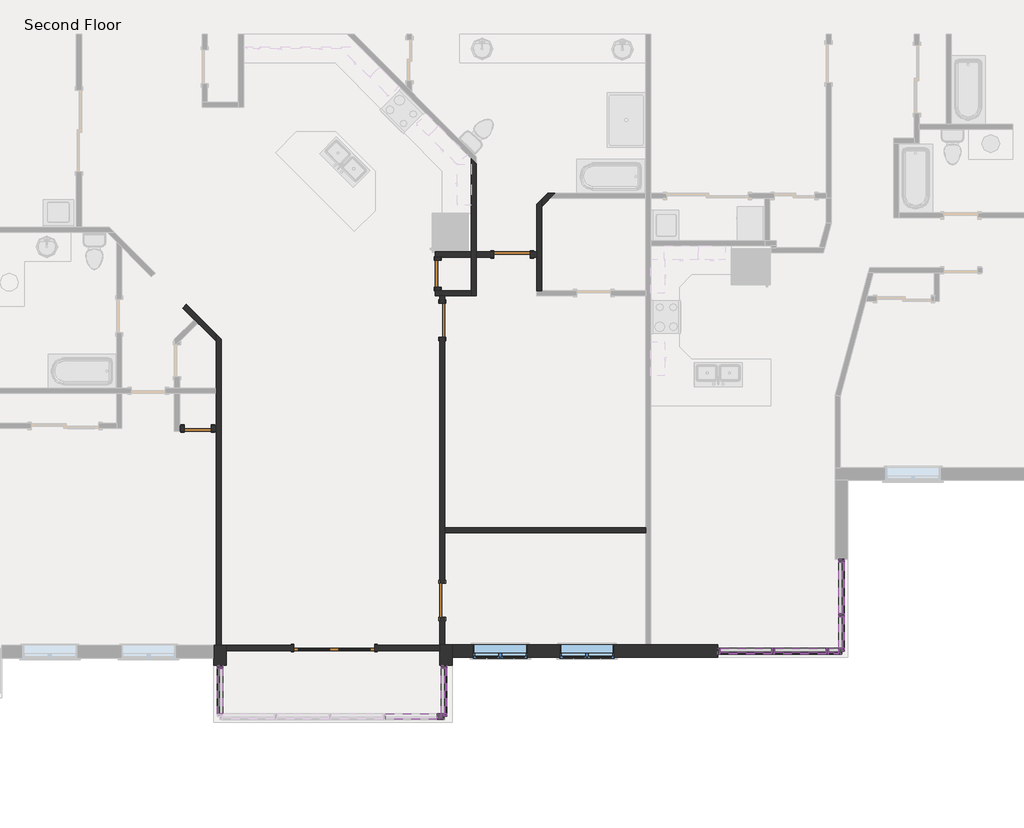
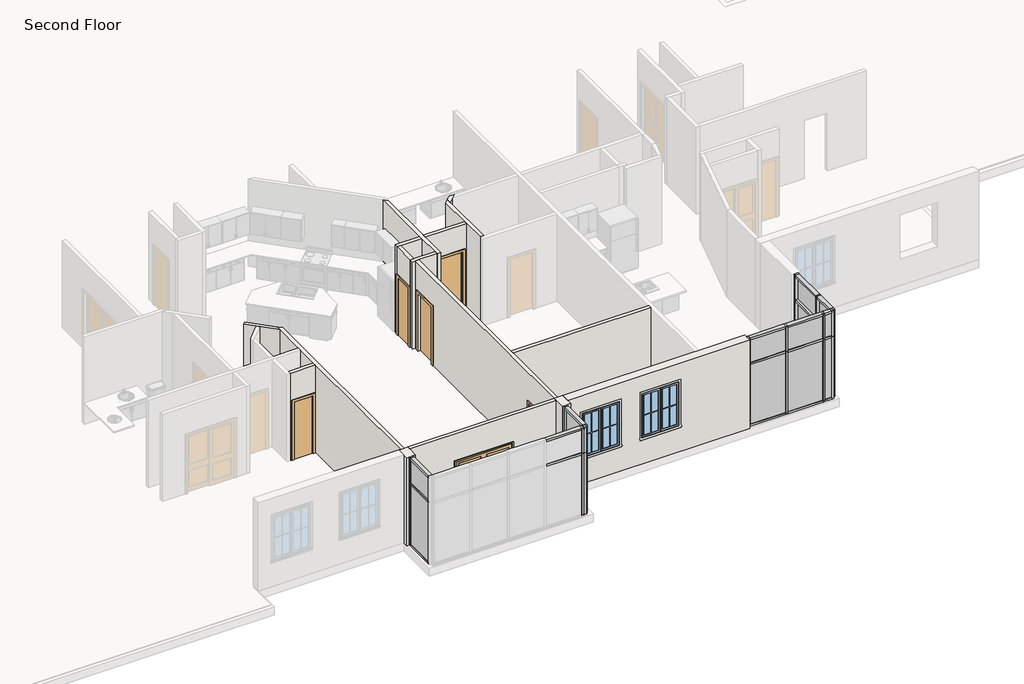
# One storey, part 4 of 17: 50 members, 16 plates, 15 walls, 6 doors, 2 windows.
"""IFC4 building model written with IfcOpenShell, lengths in millimetres."""

from ifc_helpers import new_model, si_unit, frame, origin, place, context, project, spatial, polyline, outline, extrude, faceted_brep, transform, mapped, element, save
from components import door_0a7806e9, door_e2285e44, door_f2b275c1, door_d141acb4, rectangular_mullion_rectangular_mullion_1_fa3625a1, rectangular_mullion_rectangular_mullion_1_7cbf0b94, rectangular_mullion_rectangular_mullion_1_6186cc23, rectangular_mullion_rectangular_mullion_1_049a2e78, rectangular_mullion_rectangular_mullion_1_a50b3cda, rectangular_mullion_rectangular_mullion_1_5cd4c5ac, rectangular_mullion_rectangular_mullion_1_13524bf9, rectangular_mullion_rectangular_mullion_1_a1888574, rectangular_mullion_rectangular_mullion_1_777cae27, rectangular_mullion_rectangular_mullion_1_d1eb19d3, rectangular_mullion_rectangular_mullion_1_51e130ae, rectangular_mullion_rectangular_mullion_1_daa2411d, rectangular_mullion_rectangular_mullion_1_c89d8757, rectangular_mullion_rectangular_mullion_1_6bbe7064, system_panel_glazed_0ed27d1d, system_panel_glazed_134bacdb, system_panel_glazed_53e6f9fb, system_panel_glazed_cb820e14, system_panel_glazed_7c98c5cb, system_panel_glazed_dc3c0d95, system_panel_glazed_257c6b8d, system_panel_glazed_6272dde4, system_panel_glazed_2237517c, system_panel_glazed_5f627d4c, system_panel_glazed_119c605a, system_panel_glazed_b87cf22f, window_33528cc2

model = new_model("IFC4")

# Units and contexts
model_context = context("Model", 3, world=origin())
ifc_project = project(units=[si_unit("LENGTHUNIT", "METRE", prefix="MILLI")], contexts=[model_context])

# Site, building, storey
site = spatial("IfcSite", under=ifc_project)
building = spatial("IfcBuilding", under=site)
storey = spatial("IfcBuildingStorey", under=building, Name="Second Floor", Elevation=3048.0)

# Doors
placement = place(None, origin())
door_shape = door_0a7806e9(model_context)
element("IfcDoor", 1, ObjectType="Double-Glass 1 : 72\" x 82\"", at=placement, inside=storey, context=model_context, shape_type="MappedRepresentation", body=[
    mapped(door_shape, transform((35119.623284, -18481.0379087, 3048.0), x_axis=(-1.0, 0.0, 0.0), y_axis=(0.0, -1.0, 0.0), z_axis=(0.0, 0.0, 1.0))),
])
door_2_shape = door_e2285e44(model_context)
element("IfcDoor", 2, ObjectType="Single-Flush : 24\" x 80\"", at=placement, inside=storey, context=model_context, shape_type="MappedRepresentation", body=[
    mapped(door_2_shape, transform((37444.6738013, -10083.539835, 3048.0), x_axis=(0.0, -1.0, 0.0), y_axis=(1.0, 0.0, 0.0), z_axis=(0.0, 0.0, 1.0))),
])
element("IfcDoor", 3, ObjectType="Single-Flush : 24\" x 80\"", at=placement, inside=storey, context=model_context, shape_type="MappedRepresentation", body=[
    mapped(door_2_shape, transform((32056.0053, -13556.0564679, 3048.0), x_axis=(1.0, 0.0, 0.0), y_axis=(0.0, 1.0, 0.0), z_axis=(0.0, 0.0, 1.0))),
])
door_3_shape = door_f2b275c1(model_context)
element("IfcDoor", 4, ObjectType="Single-Flush : 30\" x 80\"", at=placement, inside=storey, context=model_context, shape_type="MappedRepresentation", body=[
    mapped(door_3_shape, transform((37544.2970292, -11126.7896208, 3048.0), x_axis=(0.0, 1.0, 0.0), y_axis=(-1.0, 0.0, 0.0), z_axis=(0.0, 0.0, 1.0))),
])
element("IfcDoor", 5, ObjectType="Single-Flush : 30\" x 80\"", at=placement, inside=storey, context=model_context, shape_type="MappedRepresentation", body=[
    mapped(door_3_shape, transform((37544.2970292, -17416.6191587, 3048.0), x_axis=(0.0, -1.0, 0.0), y_axis=(1.0, 0.0, 0.0), z_axis=(0.0, 0.0, 1.0))),
])
door_4_shape = door_d141acb4(model_context)
element("IfcDoor", 6, ObjectType="Single-Flush : 32\" x 84\"", at=placement, inside=storey, context=model_context, shape_type="MappedRepresentation", body=[
    mapped(door_4_shape, transform((39111.3713345, -9649.8900492, 3048.0), x_axis=(1.0, 0.0, 0.0), y_axis=(0.0, 1.0, 0.0), z_axis=(0.0, 0.0, 1.0))),
])

# Members
rectangular_mullion_rectangular_mullion_1_shape = rectangular_mullion_rectangular_mullion_1_fa3625a1(model_context)
element("IfcMember", 7, ObjectType="Rectangular Mullion : Rectangular Mullion 1", at=placement, inside=storey, context=model_context, shape_type="MappedRepresentation", body=[
    mapped(rectangular_mullion_rectangular_mullion_1_shape, transform((44943.6345295, -18555.6618072, 6096.0), x_axis=(0.0, 0.0, 1.0), y_axis=(0.0, -1.0, 0.0), z_axis=(1.0, 0.0, 0.0))),
])
element("IfcMember", 8, ObjectType="Rectangular Mullion : Rectangular Mullion 1", at=placement, inside=storey, context=model_context, shape_type="MappedRepresentation", body=[
    mapped(rectangular_mullion_rectangular_mullion_1_shape, transform((46162.8345295, -18555.6618072, 6096.0), x_axis=(0.0, 0.0, 1.0), y_axis=(0.0, -1.0, 0.0), z_axis=(1.0, 0.0, 0.0))),
])
element("IfcMember", 9, ObjectType="Rectangular Mullion : Rectangular Mullion 1", at=placement, inside=storey, context=model_context, shape_type="MappedRepresentation", body=[
    mapped(rectangular_mullion_rectangular_mullion_1_shape, transform((37430.4620392, -20021.7015972, 6096.0), x_axis=(0.0, 0.0, 1.0), y_axis=(0.0, -1.0, 0.0), z_axis=(1.0, 0.0, 0.0))),
])
element("IfcMember", 10, ObjectType="Rectangular Mullion : Rectangular Mullion 1", at=placement, inside=storey, context=model_context, shape_type="MappedRepresentation", body=[
    mapped(rectangular_mullion_rectangular_mullion_1_shape, transform((43787.9345292, -18555.6618072, 3048.0), x_axis=(0.0, 0.0, -1.0), y_axis=(0.0, -1.0, 0.0), z_axis=(-1.0, 0.0, 0.0))),
])
element("IfcMember", 11, ObjectType="Rectangular Mullion : Rectangular Mullion 1", at=placement, inside=storey, context=model_context, shape_type="MappedRepresentation", body=[
    mapped(rectangular_mullion_rectangular_mullion_1_shape, transform((45007.1345295, -18555.6618072, 3048.0), x_axis=(0.0, 0.0, -1.0), y_axis=(0.0, -1.0, 0.0), z_axis=(-1.0, 0.0, 0.0))),
])
rectangular_mullion_rectangular_mullion_1_2_shape = rectangular_mullion_rectangular_mullion_1_7cbf0b94(model_context)
element("IfcMember", 12, ObjectType="Rectangular Mullion : Rectangular Mullion 1", at=placement, inside=storey, context=model_context, shape_type="MappedRepresentation", body=[
    mapped(rectangular_mullion_rectangular_mullion_1_2_shape, transform((44943.6345295, -18555.6618072, 5213.35), x_axis=(0.0, 0.0, 1.0), y_axis=(0.0, -1.0, 0.0), z_axis=(1.0, 0.0, 0.0))),
])
element("IfcMember", 13, ObjectType="Rectangular Mullion : Rectangular Mullion 1", at=placement, inside=storey, context=model_context, shape_type="MappedRepresentation", body=[
    mapped(rectangular_mullion_rectangular_mullion_1_2_shape, transform((46162.8345295, -18555.6618072, 5213.35), x_axis=(0.0, 0.0, 1.0), y_axis=(0.0, -1.0, 0.0), z_axis=(1.0, 0.0, 0.0))),
])
element("IfcMember", 14, ObjectType="Rectangular Mullion : Rectangular Mullion 1", at=placement, inside=storey, context=model_context, shape_type="MappedRepresentation", body=[
    mapped(rectangular_mullion_rectangular_mullion_1_2_shape, transform((37430.4620392, -20021.7015972, 5213.35), x_axis=(0.0, 0.0, 1.0), y_axis=(0.0, -1.0, 0.0), z_axis=(1.0, 0.0, 0.0))),
])
rectangular_mullion_rectangular_mullion_1_3_shape = rectangular_mullion_rectangular_mullion_1_6186cc23(model_context)
element("IfcMember", 15, ObjectType="Rectangular Mullion : Rectangular Mullion 1", at=placement, inside=storey, context=model_context, shape_type="MappedRepresentation", body=[
    mapped(rectangular_mullion_rectangular_mullion_1_3_shape, transform((44975.3845295, -18555.6618072, 3048.0), x_axis=(1.0, 0.0, 0.0), y_axis=(0.0, -1.0, 0.0), z_axis=(0.0, 0.0, -1.0))),
])
element("IfcMember", 16, ObjectType="Rectangular Mullion : Rectangular Mullion 1", at=placement, inside=storey, context=model_context, shape_type="MappedRepresentation", body=[
    mapped(rectangular_mullion_rectangular_mullion_1_3_shape, transform((46194.5845295, -18555.6618072, 3048.0), x_axis=(1.0, 0.0, 0.0), y_axis=(0.0, -1.0, 0.0), z_axis=(0.0, 0.0, -1.0))),
])
element("IfcMember", 17, ObjectType="Rectangular Mullion : Rectangular Mullion 1", at=placement, inside=storey, context=model_context, shape_type="MappedRepresentation", body=[
    mapped(rectangular_mullion_rectangular_mullion_1_3_shape, transform((37462.2120392, -20021.7015972, 3048.0), x_axis=(1.0, 0.0, 0.0), y_axis=(0.0, -1.0, 0.0), z_axis=(0.0, 0.0, -1.0))),
])
rectangular_mullion_rectangular_mullion_1_4_shape = rectangular_mullion_rectangular_mullion_1_049a2e78(model_context)
element("IfcMember", 18, ObjectType="Rectangular Mullion : Rectangular Mullion 1", at=placement, inside=storey, context=model_context, shape_type="MappedRepresentation", body=[
    mapped(rectangular_mullion_rectangular_mullion_1_4_shape, transform((44975.3845295, -18555.6618072, 5213.35), x_axis=(1.0, 0.0, 0.0), y_axis=(0.0, -1.0, 0.0), z_axis=(0.0, 0.0, -1.0))),
])
element("IfcMember", 19, ObjectType="Rectangular Mullion : Rectangular Mullion 1", at=placement, inside=storey, context=model_context, shape_type="MappedRepresentation", body=[
    mapped(rectangular_mullion_rectangular_mullion_1_4_shape, transform((46194.5845295, -18555.6618072, 5213.35), x_axis=(1.0, 0.0, 0.0), y_axis=(0.0, -1.0, 0.0), z_axis=(0.0, 0.0, -1.0))),
])
element("IfcMember", 20, ObjectType="Rectangular Mullion : Rectangular Mullion 1", at=placement, inside=storey, context=model_context, shape_type="MappedRepresentation", body=[
    mapped(rectangular_mullion_rectangular_mullion_1_4_shape, transform((37462.2120392, -20021.7015972, 5213.35), x_axis=(1.0, 0.0, 0.0), y_axis=(0.0, -1.0, 0.0), z_axis=(0.0, 0.0, -1.0))),
])
rectangular_mullion_rectangular_mullion_1_5_shape = rectangular_mullion_rectangular_mullion_1_a50b3cda(model_context)
element("IfcMember", 21, ObjectType="Rectangular Mullion : Rectangular Mullion 1", at=placement, inside=storey, context=model_context, shape_type="MappedRepresentation", body=[
    mapped(rectangular_mullion_rectangular_mullion_1_5_shape, transform((46511.3297255, -18555.6618072, 3048.0), x_axis=(1.0, 0.0, 0.0), y_axis=(0.0, -1.0, 0.0), z_axis=(0.0, 0.0, -1.0))),
])
element("IfcMember", 22, ObjectType="Rectangular Mullion : Rectangular Mullion 1", at=placement, inside=storey, context=model_context, shape_type="MappedRepresentation", body=[
    mapped(rectangular_mullion_rectangular_mullion_1_5_shape, transform((37582.8620389, -20021.7015972, 3048.0), x_axis=(1.0, 0.0, 0.0), y_axis=(0.0, -1.0, 0.0), z_axis=(0.0, 0.0, -1.0))),
])
element("IfcMember", 23, ObjectType="Rectangular Mullion : Rectangular Mullion 1", at=placement, inside=storey, context=model_context, shape_type="MappedRepresentation", body=[
    mapped(rectangular_mullion_rectangular_mullion_1_5_shape, transform((37582.8620389, -18872.3566587, 3048.0), x_axis=(0.0, 1.0, 0.0), y_axis=(1.0, 0.0, 0.0), z_axis=(0.0, 0.0, -1.0))),
])
rectangular_mullion_rectangular_mullion_1_6_shape = rectangular_mullion_rectangular_mullion_1_5cd4c5ac(model_context)
element("IfcMember", 24, ObjectType="Rectangular Mullion : Rectangular Mullion 1", at=placement, inside=storey, context=model_context, shape_type="MappedRepresentation", body=[
    mapped(rectangular_mullion_rectangular_mullion_1_6_shape, transform((46511.3297255, -18555.6618072, 5213.35), x_axis=(1.0, 0.0, 0.0), y_axis=(0.0, -1.0, 0.0), z_axis=(0.0, 0.0, -1.0))),
])
element("IfcMember", 25, ObjectType="Rectangular Mullion : Rectangular Mullion 1", at=placement, inside=storey, context=model_context, shape_type="MappedRepresentation", body=[
    mapped(rectangular_mullion_rectangular_mullion_1_6_shape, transform((37582.8620389, -20021.7015972, 5213.35), x_axis=(1.0, 0.0, 0.0), y_axis=(0.0, -1.0, 0.0), z_axis=(0.0, 0.0, -1.0))),
])
element("IfcMember", 26, ObjectType="Rectangular Mullion : Rectangular Mullion 1", at=placement, inside=storey, context=model_context, shape_type="MappedRepresentation", body=[
    mapped(rectangular_mullion_rectangular_mullion_1_6_shape, transform((37582.8620389, -18872.3566587, 5213.35), x_axis=(0.0, 1.0, 0.0), y_axis=(1.0, 0.0, 0.0), z_axis=(0.0, 0.0, -1.0))),
])
element("IfcMember", 27, ObjectType="Rectangular Mullion : Rectangular Mullion 1", at=placement, inside=storey, context=model_context, shape_type="MappedRepresentation", body=[
    mapped(rectangular_mullion_rectangular_mullion_1_6_shape, transform((43724.4345292, -18555.6618072, 6096.0), x_axis=(-1.0, 0.0, 0.0), y_axis=(0.0, -1.0, 0.0), z_axis=(0.0, 0.0, 1.0))),
])
element("IfcMember", 28, ObjectType="Rectangular Mullion : Rectangular Mullion 1", at=placement, inside=storey, context=model_context, shape_type="MappedRepresentation", body=[
    mapped(rectangular_mullion_rectangular_mullion_1_6_shape, transform((32553.6620389, -18872.3566587, 6096.0), x_axis=(0.0, 1.0, 0.0), y_axis=(-1.0, 0.0, 0.0), z_axis=(0.0, 0.0, 1.0))),
])
element("IfcMember", 29, ObjectType="Rectangular Mullion : Rectangular Mullion 1", at=placement, inside=storey, context=model_context, shape_type="MappedRepresentation", body=[
    mapped(rectangular_mullion_rectangular_mullion_1_6_shape, transform((37582.8620389, -20021.7015972, 6096.0), x_axis=(0.0, -1.0, 0.0), y_axis=(1.0, 0.0, 0.0), z_axis=(0.0, 0.0, 1.0))),
])
element("IfcMember", 30, ObjectType="Rectangular Mullion : Rectangular Mullion 1", at=placement, inside=storey, context=model_context, shape_type="MappedRepresentation", body=[
    mapped(rectangular_mullion_rectangular_mullion_1_5_shape, transform((43724.4345292, -18555.6618072, 5213.35), x_axis=(-1.0, 0.0, 0.0), y_axis=(0.0, -1.0, 0.0), z_axis=(0.0, 0.0, 1.0))),
])
element("IfcMember", 31, ObjectType="Rectangular Mullion : Rectangular Mullion 1", at=placement, inside=storey, context=model_context, shape_type="MappedRepresentation", body=[
    mapped(rectangular_mullion_rectangular_mullion_1_5_shape, transform((32553.6620389, -18872.3566587, 5213.35), x_axis=(0.0, 1.0, 0.0), y_axis=(-1.0, 0.0, 0.0), z_axis=(0.0, 0.0, 1.0))),
])
element("IfcMember", 32, ObjectType="Rectangular Mullion : Rectangular Mullion 1", at=placement, inside=storey, context=model_context, shape_type="MappedRepresentation", body=[
    mapped(rectangular_mullion_rectangular_mullion_1_5_shape, transform((37582.8620389, -20021.7015972, 5213.35), x_axis=(0.0, -1.0, 0.0), y_axis=(1.0, 0.0, 0.0), z_axis=(0.0, 0.0, 1.0))),
])
element("IfcMember", 33, ObjectType="Rectangular Mullion : Rectangular Mullion 1", at=placement, inside=storey, context=model_context, shape_type="MappedRepresentation", body=[
    mapped(rectangular_mullion_rectangular_mullion_1_shape, transform((46511.3297255, -17714.54885, 6096.0), x_axis=(0.0, 0.0, 1.0), y_axis=(-1.0, 0.0, 0.0), z_axis=(0.0, -1.0, 0.0))),
])
element("IfcMember", 34, ObjectType="Rectangular Mullion : Rectangular Mullion 1", at=placement, inside=storey, context=model_context, shape_type="MappedRepresentation", body=[
    mapped(rectangular_mullion_rectangular_mullion_1_shape, transform((46511.3297255, -16558.8488497, 3048.0), x_axis=(0.0, 0.0, -1.0), y_axis=(-1.0, 0.0, 0.0), z_axis=(0.0, 1.0, 0.0))),
])
element("IfcMember", 35, ObjectType="Rectangular Mullion : Rectangular Mullion 1", at=placement, inside=storey, context=model_context, shape_type="MappedRepresentation", body=[
    mapped(rectangular_mullion_rectangular_mullion_1_5_shape, transform((46511.3297255, -18555.6618072, 3048.0), x_axis=(0.0, -1.0, 0.0), y_axis=(-1.0, 0.0, 0.0), z_axis=(0.0, 0.0, -1.0))),
])
element("IfcMember", 36, ObjectType="Rectangular Mullion : Rectangular Mullion 1", at=placement, inside=storey, context=model_context, shape_type="MappedRepresentation", body=[
    mapped(rectangular_mullion_rectangular_mullion_1_6_shape, transform((46511.3297255, -18555.6618072, 5213.35), x_axis=(0.0, -1.0, 0.0), y_axis=(-1.0, 0.0, 0.0), z_axis=(0.0, 0.0, -1.0))),
])
element("IfcMember", 37, ObjectType="Rectangular Mullion : Rectangular Mullion 1", at=placement, inside=storey, context=model_context, shape_type="MappedRepresentation", body=[
    mapped(rectangular_mullion_rectangular_mullion_1_6_shape, transform((46511.3297255, -16495.3488497, 6096.0), x_axis=(0.0, 1.0, 0.0), y_axis=(-1.0, 0.0, 0.0), z_axis=(0.0, 0.0, 1.0))),
])
element("IfcMember", 38, ObjectType="Rectangular Mullion : Rectangular Mullion 1", at=placement, inside=storey, context=model_context, shape_type="MappedRepresentation", body=[
    mapped(rectangular_mullion_rectangular_mullion_1_5_shape, transform((46511.3297255, -16495.3488497, 5213.35), x_axis=(0.0, 1.0, 0.0), y_axis=(-1.0, 0.0, 0.0), z_axis=(0.0, 0.0, 1.0))),
])
element("IfcMember", 39, ObjectType="Rectangular Mullion : Rectangular Mullion 1", at=placement, inside=storey, context=model_context, shape_type="MappedRepresentation", body=[
    mapped(rectangular_mullion_rectangular_mullion_1_2_shape, transform((46511.3297255, -17714.54885, 5213.35), x_axis=(0.0, 0.0, 1.0), y_axis=(-1.0, 0.0, 0.0), z_axis=(0.0, -1.0, 0.0))),
])
element("IfcMember", 40, ObjectType="Rectangular Mullion : Rectangular Mullion 1", at=placement, inside=storey, context=model_context, shape_type="MappedRepresentation", body=[
    mapped(rectangular_mullion_rectangular_mullion_1_3_shape, transform((46511.3297255, -17746.29885, 3048.0), x_axis=(0.0, -1.0, 0.0), y_axis=(-1.0, 0.0, 0.0), z_axis=(0.0, 0.0, -1.0))),
])
element("IfcMember", 41, ObjectType="Rectangular Mullion : Rectangular Mullion 1", at=placement, inside=storey, context=model_context, shape_type="MappedRepresentation", body=[
    mapped(rectangular_mullion_rectangular_mullion_1_4_shape, transform((46511.3297255, -17746.29885, 5213.35), x_axis=(0.0, -1.0, 0.0), y_axis=(-1.0, 0.0, 0.0), z_axis=(0.0, 0.0, -1.0))),
])
rectangular_mullion_rectangular_mullion_1_7_shape = rectangular_mullion_rectangular_mullion_1_13524bf9(model_context)
element("IfcMember", 42, ObjectType="Rectangular Mullion : Rectangular Mullion 1", at=placement, inside=storey, context=model_context, shape_type="MappedRepresentation", body=[
    mapped(rectangular_mullion_rectangular_mullion_1_7_shape, transform((46511.3297255, -18492.1618072, 6096.0), x_axis=(0.0, 0.0, 1.0), y_axis=(-1.0, 0.0, 0.0), z_axis=(0.0, -1.0, 0.0))),
])
element("IfcMember", 43, ObjectType="Rectangular Mullion : Rectangular Mullion 1", at=placement, inside=storey, context=model_context, shape_type="MappedRepresentation", body=[
    mapped(rectangular_mullion_rectangular_mullion_1_7_shape, transform((46511.3297255, -17778.04885, 3048.0), x_axis=(0.0, 0.0, -1.0), y_axis=(-1.0, 0.0, 0.0), z_axis=(0.0, 1.0, 0.0))),
])
rectangular_mullion_rectangular_mullion_1_8_shape = rectangular_mullion_rectangular_mullion_1_a1888574(model_context)
element("IfcMember", 44, ObjectType="Rectangular Mullion : Rectangular Mullion 1", at=placement, inside=storey, context=model_context, shape_type="MappedRepresentation", body=[
    mapped(rectangular_mullion_rectangular_mullion_1_8_shape, transform((46511.3297255, -18492.1618072, 5213.35), x_axis=(0.0, 0.0, 1.0), y_axis=(-1.0, 0.0, 0.0), z_axis=(0.0, -1.0, 0.0))),
])
rectangular_mullion_rectangular_mullion_1_9_shape = rectangular_mullion_rectangular_mullion_1_777cae27(model_context)
element("IfcMember", 45, ObjectType="Rectangular Mullion : Rectangular Mullion 1", at=placement, inside=storey, context=model_context, shape_type="MappedRepresentation", body=[
    mapped(rectangular_mullion_rectangular_mullion_1_9_shape, transform((46447.8297255, -18555.6618072, 6096.0), x_axis=(0.0, 0.0, 1.0), y_axis=(0.0, -1.0, 0.0), z_axis=(1.0, 0.0, 0.0))),
])
element("IfcMember", 46, ObjectType="Rectangular Mullion : Rectangular Mullion 1", at=placement, inside=storey, context=model_context, shape_type="MappedRepresentation", body=[
    mapped(rectangular_mullion_rectangular_mullion_1_9_shape, transform((46226.3345295, -18555.6618072, 3048.0), x_axis=(0.0, 0.0, -1.0), y_axis=(0.0, -1.0, 0.0), z_axis=(-1.0, 0.0, 0.0))),
])
rectangular_mullion_rectangular_mullion_1_10_shape = rectangular_mullion_rectangular_mullion_1_d1eb19d3(model_context)
element("IfcMember", 47, ObjectType="Rectangular Mullion : Rectangular Mullion 1", at=placement, inside=storey, context=model_context, shape_type="MappedRepresentation", body=[
    mapped(rectangular_mullion_rectangular_mullion_1_10_shape, transform((46447.8297255, -18555.6618072, 5213.35), x_axis=(0.0, 0.0, 1.0), y_axis=(0.0, -1.0, 0.0), z_axis=(1.0, 0.0, 0.0))),
])
rectangular_mullion_rectangular_mullion_1_11_shape = rectangular_mullion_rectangular_mullion_1_51e130ae(model_context)
element("IfcMember", 48, ObjectType="Rectangular Mullion : Rectangular Mullion 1", at=placement, inside=storey, context=model_context, shape_type="MappedRepresentation", body=[
    mapped(rectangular_mullion_rectangular_mullion_1_11_shape, transform((32553.6620389, -18935.8566587, 3048.0), x_axis=(0.0, 0.0, -1.0), y_axis=(-1.0, 0.0, 0.0), z_axis=(0.0, 1.0, 0.0))),
])
element("IfcMember", 49, ObjectType="Rectangular Mullion : Rectangular Mullion 1", at=placement, inside=storey, context=model_context, shape_type="MappedRepresentation", body=[
    mapped(rectangular_mullion_rectangular_mullion_1_11_shape, transform((37582.8620389, -19958.2015972, 3048.0), x_axis=(0.0, 0.0, -1.0), y_axis=(1.0, 0.0, 0.0), z_axis=(0.0, -1.0, 0.0))),
])
rectangular_mullion_rectangular_mullion_1_12_shape = rectangular_mullion_rectangular_mullion_1_daa2411d(model_context)
element("IfcMember", 50, ObjectType="Rectangular Mullion : Rectangular Mullion 1", at=placement, inside=storey, context=model_context, shape_type="MappedRepresentation", body=[
    mapped(rectangular_mullion_rectangular_mullion_1_12_shape, transform((32553.6620389, -19958.2015972, 5213.35), x_axis=(0.0, 0.0, 1.0), y_axis=(-1.0, 0.0, 0.0), z_axis=(0.0, -1.0, 0.0))),
])
element("IfcMember", 51, ObjectType="Rectangular Mullion : Rectangular Mullion 1", at=placement, inside=storey, context=model_context, shape_type="MappedRepresentation", body=[
    mapped(rectangular_mullion_rectangular_mullion_1_12_shape, transform((37582.8620389, -18935.8566587, 5213.35), x_axis=(0.0, 0.0, 1.0), y_axis=(1.0, 0.0, 0.0), z_axis=(0.0, 1.0, 0.0))),
])
element("IfcMember", 52, ObjectType="Rectangular Mullion : Rectangular Mullion 1", at=placement, inside=storey, context=model_context, shape_type="MappedRepresentation", body=[
    mapped(rectangular_mullion_rectangular_mullion_1_11_shape, transform((32553.6620389, -19958.2015972, 6096.0), x_axis=(0.0, 0.0, 1.0), y_axis=(-1.0, 0.0, 0.0), z_axis=(0.0, -1.0, 0.0))),
])
element("IfcMember", 53, ObjectType="Rectangular Mullion : Rectangular Mullion 1", at=placement, inside=storey, context=model_context, shape_type="MappedRepresentation", body=[
    mapped(rectangular_mullion_rectangular_mullion_1_11_shape, transform((37582.8620389, -18935.8566587, 6096.0), x_axis=(0.0, 0.0, 1.0), y_axis=(1.0, 0.0, 0.0), z_axis=(0.0, 1.0, 0.0))),
])
rectangular_mullion_rectangular_mullion_1_13_shape = rectangular_mullion_rectangular_mullion_1_c89d8757(model_context)
element("IfcMember", 54, ObjectType="Rectangular Mullion : Rectangular Mullion 1", at=placement, inside=storey, context=model_context, shape_type="MappedRepresentation", body=[
    mapped(rectangular_mullion_rectangular_mullion_1_13_shape, transform((37519.3620389, -20021.7015972, 6096.0), x_axis=(0.0, 0.0, 1.0), y_axis=(0.0, -1.0, 0.0), z_axis=(1.0, 0.0, 0.0))),
])
element("IfcMember", 55, ObjectType="Rectangular Mullion : Rectangular Mullion 1", at=placement, inside=storey, context=model_context, shape_type="MappedRepresentation", body=[
    mapped(rectangular_mullion_rectangular_mullion_1_13_shape, transform((37493.9620392, -20021.7015972, 3048.0), x_axis=(0.0, 0.0, -1.0), y_axis=(0.0, -1.0, 0.0), z_axis=(-1.0, 0.0, 0.0))),
])
rectangular_mullion_rectangular_mullion_1_14_shape = rectangular_mullion_rectangular_mullion_1_6bbe7064(model_context)
element("IfcMember", 56, ObjectType="Rectangular Mullion : Rectangular Mullion 1", at=placement, inside=storey, context=model_context, shape_type="MappedRepresentation", body=[
    mapped(rectangular_mullion_rectangular_mullion_1_14_shape, transform((37519.3620389, -20021.7015972, 5213.35), x_axis=(0.0, 0.0, 1.0), y_axis=(0.0, -1.0, 0.0), z_axis=(1.0, 0.0, 0.0))),
])

# Plates
system_panel_glazed_shape = system_panel_glazed_0ed27d1d(model_context)
element("IfcPlate", 57, ObjectType="System Panel : Glazed", at=placement, inside=storey, context=model_context, shape_type="MappedRepresentation", body=[
    mapped(system_panel_glazed_shape, transform((44365.7845293, -18555.6618072, 3111.5), x_axis=(1.0, 0.0, 0.0), y_axis=(0.0, 1.0, 0.0), z_axis=(0.0, 0.0, 1.0))),
])
element("IfcPlate", 58, ObjectType="System Panel : Glazed", at=placement, inside=storey, context=model_context, shape_type="MappedRepresentation", body=[
    mapped(system_panel_glazed_shape, transform((45584.9845295, -18555.6618072, 3111.5), x_axis=(1.0, 0.0, 0.0), y_axis=(0.0, 1.0, 0.0), z_axis=(0.0, 0.0, 1.0))),
])
system_panel_glazed_2_shape = system_panel_glazed_134bacdb(model_context)
element("IfcPlate", 59, ObjectType="System Panel : Glazed", at=placement, inside=storey, context=model_context, shape_type="MappedRepresentation", body=[
    mapped(system_panel_glazed_2_shape, transform((44365.7845293, -18555.6618072, 5245.1), x_axis=(1.0, 0.0, 0.0), y_axis=(0.0, 1.0, 0.0), z_axis=(0.0, 0.0, 1.0))),
])
element("IfcPlate", 60, ObjectType="System Panel : Glazed", at=placement, inside=storey, context=model_context, shape_type="MappedRepresentation", body=[
    mapped(system_panel_glazed_2_shape, transform((45584.9845295, -18555.6618072, 5245.1), x_axis=(1.0, 0.0, 0.0), y_axis=(0.0, 1.0, 0.0), z_axis=(0.0, 0.0, 1.0))),
])
system_panel_glazed_3_shape = system_panel_glazed_53e6f9fb(model_context)
element("IfcPlate", 61, ObjectType="System Panel : Glazed", at=placement, inside=storey, context=model_context, shape_type="MappedRepresentation", body=[
    mapped(system_panel_glazed_3_shape, transform((46511.3297255, -17136.6988499, 3111.5), x_axis=(0.0, -1.0, 0.0), y_axis=(1.0, 0.0, 0.0), z_axis=(0.0, 0.0, 1.0))),
])
system_panel_glazed_4_shape = system_panel_glazed_cb820e14(model_context)
element("IfcPlate", 62, ObjectType="System Panel : Glazed", at=placement, inside=storey, context=model_context, shape_type="MappedRepresentation", body=[
    mapped(system_panel_glazed_4_shape, transform((46511.3297255, -17136.6988499, 5245.1), x_axis=(0.0, -1.0, 0.0), y_axis=(1.0, 0.0, 0.0), z_axis=(0.0, 0.0, 1.0))),
])
system_panel_glazed_5_shape = system_panel_glazed_7c98c5cb(model_context)
element("IfcPlate", 63, ObjectType="System Panel : Glazed", at=placement, inside=storey, context=model_context, shape_type="MappedRepresentation", body=[
    mapped(system_panel_glazed_5_shape, transform((46511.3297255, -18135.1053286, 3111.5), x_axis=(0.0, -1.0, 0.0), y_axis=(1.0, 0.0, 0.0), z_axis=(0.0, 0.0, 1.0))),
])
system_panel_glazed_6_shape = system_panel_glazed_dc3c0d95(model_context)
element("IfcPlate", 64, ObjectType="System Panel : Glazed", at=placement, inside=storey, context=model_context, shape_type="MappedRepresentation", body=[
    mapped(system_panel_glazed_6_shape, transform((46511.3297255, -18135.1053286, 5245.1), x_axis=(0.0, -1.0, 0.0), y_axis=(1.0, 0.0, 0.0), z_axis=(0.0, 0.0, 1.0))),
])
system_panel_glazed_7_shape = system_panel_glazed_257c6b8d(model_context)
element("IfcPlate", 65, ObjectType="System Panel : Glazed", at=placement, inside=storey, context=model_context, shape_type="MappedRepresentation", body=[
    mapped(system_panel_glazed_7_shape, transform((46337.0821275, -18555.6618072, 3111.5), x_axis=(1.0, 0.0, 0.0), y_axis=(0.0, 1.0, 0.0), z_axis=(0.0, 0.0, 1.0))),
])
system_panel_glazed_8_shape = system_panel_glazed_6272dde4(model_context)
element("IfcPlate", 66, ObjectType="System Panel : Glazed", at=placement, inside=storey, context=model_context, shape_type="MappedRepresentation", body=[
    mapped(system_panel_glazed_8_shape, transform((46337.0821275, -18555.6618072, 5245.1), x_axis=(1.0, 0.0, 0.0), y_axis=(0.0, 1.0, 0.0), z_axis=(0.0, 0.0, 1.0))),
])
system_panel_glazed_9_shape = system_panel_glazed_2237517c(model_context)
element("IfcPlate", 67, ObjectType="System Panel : Glazed", at=placement, inside=storey, context=model_context, shape_type="MappedRepresentation", body=[
    mapped(system_panel_glazed_9_shape, transform((32553.6620389, -19447.029128, 3111.5), x_axis=(0.0, -1.0, 0.0), y_axis=(1.0, 0.0, 0.0), z_axis=(0.0, 0.0, 1.0))),
])
element("IfcPlate", 68, ObjectType="System Panel : Glazed", at=placement, inside=storey, context=model_context, shape_type="MappedRepresentation", body=[
    mapped(system_panel_glazed_9_shape, transform((37582.8620389, -19447.029128, 3111.5), x_axis=(0.0, 1.0, 0.0), y_axis=(-1.0, 0.0, 0.0), z_axis=(0.0, 0.0, 1.0))),
])
system_panel_glazed_10_shape = system_panel_glazed_5f627d4c(model_context)
element("IfcPlate", 69, ObjectType="System Panel : Glazed", at=placement, inside=storey, context=model_context, shape_type="MappedRepresentation", body=[
    mapped(system_panel_glazed_10_shape, transform((32553.6620389, -19447.029128, 5245.1), x_axis=(0.0, -1.0, 0.0), y_axis=(1.0, 0.0, 0.0), z_axis=(0.0, 0.0, 1.0))),
])
element("IfcPlate", 70, ObjectType="System Panel : Glazed", at=placement, inside=storey, context=model_context, shape_type="MappedRepresentation", body=[
    mapped(system_panel_glazed_10_shape, transform((37582.8620389, -19447.029128, 5245.1), x_axis=(0.0, 1.0, 0.0), y_axis=(-1.0, 0.0, 0.0), z_axis=(0.0, 0.0, 1.0))),
])
system_panel_glazed_11_shape = system_panel_glazed_119c605a(model_context)
element("IfcPlate", 71, ObjectType="System Panel : Glazed", at=placement, inside=storey, context=model_context, shape_type="MappedRepresentation", body=[
    mapped(system_panel_glazed_11_shape, transform((37506.662039, -20021.7015972, 3111.5), x_axis=(1.0, 0.0, 0.0), y_axis=(0.0, 1.0, 0.0), z_axis=(0.0, 0.0, 1.0))),
])
system_panel_glazed_12_shape = system_panel_glazed_b87cf22f(model_context)
element("IfcPlate", 72, ObjectType="System Panel : Glazed", at=placement, inside=storey, context=model_context, shape_type="MappedRepresentation", body=[
    mapped(system_panel_glazed_12_shape, transform((37506.662039, -20021.7015972, 5245.1), x_axis=(1.0, 0.0, 0.0), y_axis=(0.0, 1.0, 0.0), z_axis=(0.0, 0.0, 1.0))),
])

# Walls
element("IfcWall", 73, ObjectType="Exterior - Brick on Wood Stud", at=placement, inside=storey, context=model_context, shape_type="Brep", body=[
    faceted_brep([(32412.3745389, -18426.2691587, 3048.0), (32412.3745389, -18708.8441587, 3048.0), (32412.3745389, -18872.3566587, 3048.0), (32412.3745389, -18872.3566587, 6096.0), (32412.3745389, -18708.8441587, 6096.0), (32412.3745389, -18426.2691587, 6096.0), (32694.9495389, -18426.2691587, 3048.0), (32694.9495389, -18426.2691587, 6096.0), (32694.9495389, -18540.5691587, 6096.0), (32694.9495389, -18872.3566587, 6096.0), (32694.9495389, -18872.3566587, 3048.0), (32694.9495389, -18540.5691587, 3048.0), (32465.5565643, -18426.2691587, 3048.0), (32579.8565643, -18426.2691587, 3048.0), (32579.8565643, -18426.2691587, 6096.0), (32465.5565643, -18426.2691587, 6096.0)], [[[0, 1, 2, 3, 4, 5]], [[6, 7, 8, 9, 10, 11]], [[2, 1, 0, 12, 13, 6, 11, 10]], [[3, 2, 10, 9]], [[5, 4, 3, 9, 8, 7, 14, 15]], [[0, 5, 15, 14, 7, 6, 13, 12]]]),
])
element("IfcWall", 74, ObjectType="Exterior - Brick on Wood Stud", at=placement, inside=storey, context=model_context, shape_type="Brep", body=[
    faceted_brep([(37769.7220292, -18872.3566587, 3048.0), (37769.7220292, -18696.9493072, 3048.0), (37769.7220292, -18414.3743072, 3048.0), (37769.7220292, -18414.3743072, 6096.0), (37769.7220292, -18696.9493072, 6096.0), (37769.7220292, -18872.3566587, 6096.0), (37487.1470292, -18872.3566587, 3048.0), (37487.1470292, -18872.3566587, 6096.0), (37487.1470292, -18540.5691587, 6096.0), (37487.1470292, -18426.2691587, 6096.0), (37487.1470292, -18414.3743072, 6096.0), (37487.1470292, -18414.3743072, 3048.0), (37487.1470292, -18426.2691587, 3048.0), (37487.1470292, -18540.5691587, 3048.0)], [[[0, 1, 2, 3, 4, 5]], [[6, 7, 8, 9, 10, 11, 12, 13]], [[2, 1, 0, 6, 13, 12, 11]], [[5, 4, 3, 10, 9, 8, 7]], [[0, 5, 7, 6]], [[3, 2, 11, 10]]]),
])
element("IfcWall", 75, ObjectType="Exterior - Brick on Wood Stud", at=placement, inside=storey, context=model_context, shape_type="Brep", body=[
    faceted_brep([(37769.7220292, -18696.9493072, 3048.0), (43724.4345292, -18696.9493072, 3048.0), (43724.4345292, -18696.9493072, 6096.0), (37769.7220292, -18696.9493072, 6096.0), (38238.0345292, -18696.9493072, 5486.4), (39457.2345292, -18696.9493072, 5486.4), (39457.2345292, -18696.9493072, 3962.4), (38238.0345292, -18696.9493072, 3962.4), (40185.8970292, -18696.9493072, 5486.4), (41405.0970292, -18696.9493072, 5486.4), (41405.0970292, -18696.9493072, 3962.4), (40185.8970292, -18696.9493072, 3962.4), (37769.7220292, -18414.3743072, 3048.0), (37769.7220292, -18414.3743072, 6096.0), (42109.9470292, -18414.3743072, 6096.0), (42224.2470292, -18414.3743072, 6096.0), (43724.4345292, -18414.3743072, 6096.0), (43724.4345292, -18414.3743072, 3048.0), (42224.2470292, -18414.3743072, 3048.0), (42109.9470292, -18414.3743072, 3048.0), (38238.0345292, -18414.3743072, 5486.4), (38238.0345292, -18414.3743072, 3962.4), (39457.2345292, -18414.3743072, 3962.4), (39457.2345292, -18414.3743072, 5486.4), (40185.8970292, -18414.3743072, 5486.4), (40185.8970292, -18414.3743072, 3962.4), (41405.0970292, -18414.3743072, 3962.4), (41405.0970292, -18414.3743072, 5486.4)], [[[0, 1, 2, 3], [4, 5, 6, 7], [8, 9, 10, 11]], [[12, 13, 14, 15, 16, 17, 18, 19], [20, 21, 22, 23], [24, 25, 26, 27]], [[1, 0, 12, 19, 18, 17]], [[2, 1, 17, 16]], [[3, 2, 16, 15, 14, 13]], [[21, 20, 4, 7]], [[22, 21, 7, 6]], [[23, 22, 6, 5]], [[20, 23, 5, 4]], [[25, 24, 8, 11]], [[26, 25, 11, 10]], [[27, 26, 10, 9]], [[24, 27, 9, 8]], [[0, 3, 13, 12]]]),
])
element("IfcWall", 76, ObjectType="Interior - 4 1/2\" Partition", at=placement, inside=storey, context=model_context, shape_type="Brep", body=[
    faceted_brep([(32465.5565643, -11438.5770572, 3048.0), (32465.5565643, -11600.2216674, 3048.0), (32465.5565643, -12650.0236347, 3048.0), (32465.5565643, -12764.3236347, 3048.0), (32465.5565643, -13498.9064679, 3048.0), (32465.5565643, -13613.2064679, 3048.0), (32465.5565643, -18426.2691587, 3048.0), (32465.5565643, -18426.2691587, 6096.0), (32465.5565643, -13613.2064679, 6096.0), (32465.5565643, -13498.9064679, 6096.0), (32465.5565643, -12764.3236347, 6096.0), (32465.5565643, -12650.0236347, 6096.0), (32465.5565643, -11600.2216674, 6096.0), (32465.5565643, -11438.5770572, 6096.0), (32579.8565643, -11552.8770572, 3048.0), (32579.8565643, -11552.8770572, 6096.0), (32579.8565643, -18426.2691587, 6096.0), (32579.8565643, -18426.2691587, 3048.0)], [[[0, 1, 2, 3, 4, 5, 6, 7, 8, 9, 10, 11, 12, 13]], [[14, 15, 16, 17]], [[6, 5, 4, 3, 2, 1, 0, 14, 17]], [[13, 12, 11, 10, 9, 8, 7, 16, 15]], [[0, 13, 15, 14]], [[7, 6, 17, 16]]]),
])
element("IfcWall", 77, ObjectType="Interior - 4 1/2\" Partition", at=placement, inside=storey, context=model_context, shape_type="SweptSolid", body=[
    extrude(outline(polyline([(5080.0, 32360.8053), (3048.0, 32360.8053), (3048.0, 32465.5565643), (6096.0, 32465.5565643), (6096.0, 31646.4540357), (3048.0, 31646.4540357), (3048.0, 31751.2053), (5080.0, 31751.2053), (5080.0, 32360.8053)])), frame((0.0, -13613.2064679, 0.0), z_axis=(0.0, 1.0, 0.0), x_axis=(0.0, 0.0, 1.0)), (0.0, 0.0, 1.0), 114.3),
])
element("IfcWall", 78, ObjectType="Interior - 4 1/2\" Partition", at=placement, inside=storey, context=model_context, shape_type="SweptSolid", body=[
    extrude(outline(polyline([(3048.0, 32694.9495389), (3048.0, 34205.223284), (5130.8, 34205.223284), (5130.8, 36034.023284), (3048.0, 36034.023284), (3048.0, 37487.1470292), (6096.0, 37487.1470292), (6096.0, 32694.9495389), (3048.0, 32694.9495389)])), frame((0.0, -18540.5691587, 0.0), z_axis=(0.0, 1.0, 0.0), x_axis=(0.0, 0.0, 1.0)), (0.0, 0.0, 1.0), 114.3),
])
element("IfcWall", 79, ObjectType="Interior - 4 1/2\" Partition", at=placement, inside=storey, context=model_context, shape_type="SweptSolid", body=[
    extrude(outline(polyline([(37601.4470292, -15784.9064679), (42109.9470292, -15784.9064679), (42109.9470292, -15899.2064679), (37601.4470292, -15899.2064679), (37601.4470292, -15784.9064679)])), frame((0.0, 0.0, 3048.0), z_axis=(0.0, 0.0, 1.0), x_axis=(1.0, 0.0, 0.0)), (0.0, 0.0, 1.0), 3048.0),
])
element("IfcWall", 80, ObjectType="Interior - 4 1/2\" Partition", at=placement, inside=storey, context=model_context, shape_type="Brep", body=[
    faceted_brep([(37487.1470292, -17797.6191587, 5080.0), (37487.1470292, -17797.6191587, 3048.0), (37487.1470292, -18426.2691587, 3048.0), (37487.1470292, -18426.2691587, 6096.0), (37487.1470292, -10574.3396208, 6096.0), (37487.1470292, -10574.3396208, 3048.0), (37487.1470292, -10745.7896208, 3048.0), (37487.1470292, -10745.7896208, 5080.0), (37487.1470292, -11507.7896208, 5080.0), (37487.1470292, -11507.7896208, 3048.0), (37487.1470292, -17035.6191587, 3048.0), (37487.1470292, -17035.6191587, 5080.0), (37601.4470292, -18426.2691587, 3048.0), (37601.4470292, -17797.6191587, 3048.0), (37601.4470292, -17797.6191587, 5080.0), (37601.4470292, -17035.6191587, 5080.0), (37601.4470292, -17035.6191587, 3048.0), (37601.4470292, -15899.2064679, 3048.0), (37601.4470292, -15784.9064679, 3048.0), (37601.4470292, -11507.7896208, 3048.0), (37601.4470292, -11507.7896208, 5080.0), (37601.4470292, -10745.7896208, 5080.0), (37601.4470292, -10745.7896208, 3048.0), (37601.4470292, -10574.3396208, 3048.0), (37601.4470292, -10574.3396208, 6096.0), (37601.4470292, -15784.9064679, 6096.0), (37601.4470292, -15899.2064679, 6096.0), (37601.4470292, -18426.2691587, 6096.0)], [[[0, 1, 2, 3, 4, 5, 6, 7, 8, 9, 10, 11]], [[12, 13, 14, 15, 16, 17, 18, 19, 20, 21, 22, 23, 24, 25, 26, 27]], [[23, 22, 6, 5]], [[10, 9, 19, 18, 17, 16]], [[2, 1, 13, 12]], [[4, 3, 27, 26, 25, 24]], [[7, 6, 22, 21]], [[8, 7, 21, 20]], [[9, 8, 20, 19]], [[14, 13, 1, 0]], [[15, 14, 0, 11]], [[16, 15, 11, 10]], [[5, 4, 24, 23]], [[3, 2, 12, 27]]]),
])
element("IfcWall", 81, ObjectType="Interior - 4 1/2\" Partition", at=placement, inside=storey, context=model_context, shape_type="Brep", body=[
    faceted_brep([(38310.9505062, -10574.3396208, 3048.0), (38310.9505062, -9707.0400492, 3048.0), (38310.9505062, -9592.7400492, 3048.0), (38310.9505062, -7612.7771359, 3048.0), (38310.9505062, -7612.7771359, 6096.0), (38310.9505062, -9592.7400492, 6096.0), (38310.9505062, -9707.0400492, 6096.0), (38310.9505062, -10574.3396208, 6096.0), (38196.6505062, -10574.3396208, 3048.0), (38196.6505062, -10574.3396208, 6096.0), (38196.6505062, -10460.0396208, 6096.0), (38196.6505062, -9707.0400492, 6096.0), (38196.6505062, -9592.7400492, 6096.0), (38196.6505062, -7498.4771359, 6096.0), (38196.6505062, -7498.4771359, 3048.0), (38196.6505062, -9592.7400492, 3048.0), (38196.6505062, -9707.0400492, 3048.0), (38196.6505062, -10460.0396208, 3048.0)], [[[0, 1, 2, 3, 4, 5, 6, 7]], [[8, 9, 10, 11, 12, 13, 14, 15, 16, 17]], [[3, 2, 1, 0, 8, 17, 16, 15, 14]], [[7, 6, 5, 4, 13, 12, 11, 10, 9]], [[0, 7, 9, 8]], [[4, 3, 14, 13]]]),
])
element("IfcWall", 82, ObjectType="Interior - 4 1/2\" Partition", at=placement, inside=storey, context=model_context, shape_type="Brep", body=[
    faceted_brep([(37387.5238013, -10574.3396208, 3048.0), (37487.1470292, -10574.3396208, 3048.0), (37601.4470292, -10574.3396208, 3048.0), (38196.6505062, -10574.3396208, 3048.0), (38196.6505062, -10574.3396208, 6096.0), (37601.4470292, -10574.3396208, 6096.0), (37487.1470292, -10574.3396208, 6096.0), (37387.5238013, -10574.3396208, 6096.0), (37387.5238013, -10460.0396208, 3048.0), (37387.5238013, -10460.0396208, 6096.0), (37501.8238013, -10460.0396208, 6096.0), (38196.6505062, -10460.0396208, 6096.0), (38196.6505062, -10460.0396208, 3048.0), (37501.8238013, -10460.0396208, 3048.0)], [[[0, 1, 2, 3, 4, 5, 6, 7]], [[8, 9, 10, 11, 12, 13]], [[3, 2, 1, 0, 8, 13, 12]], [[7, 6, 5, 4, 11, 10, 9]], [[0, 7, 9, 8]], [[4, 3, 12, 11]]]),
])
element("IfcWall", 83, ObjectType="Interior - 4 1/2\" Partition", at=placement, inside=storey, context=model_context, shape_type="Brep", body=[
    faceted_brep([(39517.7713345, -9592.7400492, 3048.0), (39517.7713345, -9592.7400492, 5181.6), (38704.9713345, -9592.7400492, 5181.6), (38704.9713345, -9592.7400492, 3048.0), (38310.9505062, -9592.7400492, 3048.0), (38310.9505062, -9592.7400492, 6096.0), (39663.8213345, -9592.7400492, 6096.0), (39663.8213345, -9592.7400492, 3048.0), (39517.7713345, -9707.0400492, 5181.6), (39517.7713345, -9707.0400492, 3048.0), (39663.8213345, -9707.0400492, 3048.0), (39663.8213345, -9707.0400492, 6096.0), (38310.9505062, -9707.0400492, 6096.0), (38310.9505062, -9707.0400492, 3048.0), (38704.9713345, -9707.0400492, 3048.0), (38704.9713345, -9707.0400492, 5181.6)], [[[0, 1, 2, 3, 4, 5, 6, 7]], [[8, 9, 10, 11, 12, 13, 14, 15]], [[9, 0, 7, 10]], [[3, 14, 13, 4]], [[11, 6, 5, 12]], [[1, 0, 9, 8]], [[2, 1, 8, 15]], [[3, 2, 15, 14]], [[7, 6, 11, 10]], [[5, 4, 13, 12]]]),
    faceted_brep([(37387.5238013, -9592.7400492, 3048.0), (37387.5238013, -9592.7400492, 6096.0), (38196.6505062, -9592.7400492, 6096.0), (38196.6505062, -9592.7400492, 3048.0), (37387.5238013, -9707.0400492, 6096.0), (37387.5238013, -9707.0400492, 3048.0), (37501.8238013, -9707.0400492, 3048.0), (38196.6505062, -9707.0400492, 3048.0), (38196.6505062, -9707.0400492, 6096.0), (37501.8238013, -9707.0400492, 6096.0)], [[[0, 1, 2, 3]], [[4, 5, 6, 7, 8, 9]], [[5, 0, 3, 7, 6]], [[1, 4, 9, 8, 2]], [[1, 0, 5, 4]], [[3, 2, 8, 7]]]),
])
element("IfcWall", 84, ObjectType="Interior - 4 1/2\" Partition", at=placement, inside=storey, context=model_context, shape_type="SweptSolid", body=[
    extrude(outline(polyline([(-10388.339835, 5080.0), (-10388.339835, 3048.0), (-10460.0396208, 3048.0), (-10460.0396208, 6096.0), (-9707.0400492, 6096.0), (-9707.0400492, 3048.0), (-9778.739835, 3048.0), (-9778.739835, 5080.0), (-10388.339835, 5080.0)])), frame((37387.5238013, 0.0, 0.0), z_axis=(1.0, 0.0, 0.0), x_axis=(0.0, 1.0, 0.0)), (0.0, 0.0, 1.0), 114.3),
])
element("IfcWall", 85, ObjectType="Interior - 4 1/2\" Partition", at=placement, inside=storey, context=model_context, shape_type="Brep", body=[
    faceted_brep([(39778.1213345, -10460.0396208, 3048.0), (39778.1213345, -8574.419141, 3048.0), (39778.1213345, -8412.7745308, 3048.0), (39778.1213345, -8412.7745308, 6096.0), (39778.1213345, -8574.419141, 6096.0), (39778.1213345, -10460.0396208, 6096.0), (39663.8213345, -10460.0396208, 3048.0), (39663.8213345, -10460.0396208, 6096.0), (39663.8213345, -9707.0400492, 6096.0), (39663.8213345, -9592.7400492, 6096.0), (39663.8213345, -8527.0745308, 6096.0), (39663.8213345, -8527.0745308, 3048.0), (39663.8213345, -9592.7400492, 3048.0), (39663.8213345, -9707.0400492, 3048.0)], [[[0, 1, 2, 3, 4, 5]], [[6, 7, 8, 9, 10, 11, 12, 13]], [[2, 1, 0, 6, 13, 12, 11]], [[5, 4, 3, 10, 9, 8, 7]], [[3, 2, 11, 10]], [[0, 5, 7, 6]]]),
])
element("IfcWall", 86, ObjectType="Interior - 4 1/2\" Partition", at=placement, inside=storey, context=model_context, shape_type="Brep", body=[
    faceted_brep([(39778.1213345, -8574.419141, 3048.0), (39960.1697865, -8392.370689, 3048.0), (40074.4697865, -8278.070689, 3048.0), (40074.4697865, -8278.070689, 6096.0), (39960.1697865, -8392.370689, 6096.0), (39778.1213345, -8574.419141, 6096.0), (39778.1213345, -8412.7745308, 3048.0), (39778.1213345, -8412.7745308, 6096.0), (39912.8251764, -8278.070689, 6096.0), (39912.8251764, -8278.070689, 3048.0)], [[[0, 1, 2, 3, 4, 5]], [[6, 7, 8, 9]], [[2, 1, 0, 6, 9]], [[5, 4, 3, 8, 7]], [[3, 2, 9, 8]], [[0, 5, 7, 6]]]),
])
element("IfcWall", 87, ObjectType="Interior - 4 1/2\" Partition", at=placement, inside=storey, context=model_context, shape_type="Brep", body=[
    faceted_brep([(31717.0040848, -10851.6691879, 3048.0), (31975.277942, -11109.9430451, 3048.0), (32056.1002471, -11190.7653502, 3048.0), (32465.5565643, -11600.2216674, 3048.0), (32465.5565643, -11600.2216674, 6096.0), (32056.1002471, -11190.7653502, 6096.0), (31975.277942, -11109.9430451, 6096.0), (31717.0040848, -10851.6691879, 6096.0), (31797.8263899, -10770.8468828, 3048.0), (31797.8263899, -10770.8468828, 6096.0), (32465.5565643, -11438.5770572, 6096.0), (32465.5565643, -11438.5770572, 3048.0)], [[[0, 1, 2, 3, 4, 5, 6, 7]], [[8, 9, 10, 11]], [[3, 2, 1, 0, 8, 11]], [[7, 6, 5, 4, 10, 9]], [[0, 7, 9, 8]], [[4, 3, 11, 10]]]),
])

# Windows
window_shape = window_33528cc2(model_context)
element("IfcWindow", 88, ObjectType="Window-Casement-Double : 48\" x 60\"", at=placement, inside=storey, context=model_context, shape_type="MappedRepresentation", body=[
    mapped(window_shape, transform((38847.6345292, -18555.6618072, 3048.0), x_axis=(-1.0, 0.0, 0.0), y_axis=(0.0, -1.0, 0.0), z_axis=(0.0, 0.0, 1.0))),
])
element("IfcWindow", 89, ObjectType="Window-Casement-Double : 48\" x 60\"", at=placement, inside=storey, context=model_context, shape_type="MappedRepresentation", body=[
    mapped(window_shape, transform((40795.4970292, -18555.6618072, 3048.0), x_axis=(-1.0, 0.0, 0.0), y_axis=(0.0, -1.0, 0.0), z_axis=(0.0, 0.0, 1.0))),
])

save(model, "model.ifc")
